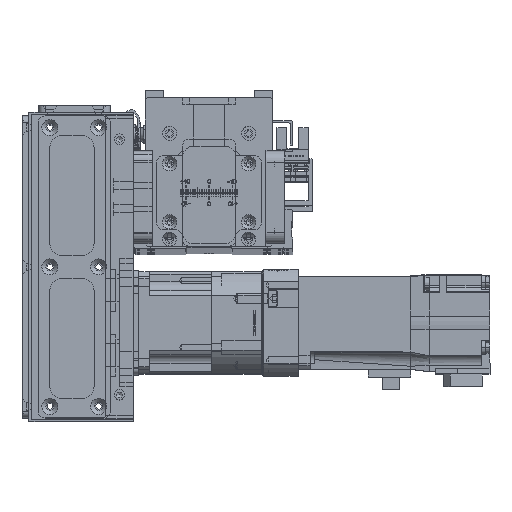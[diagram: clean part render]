
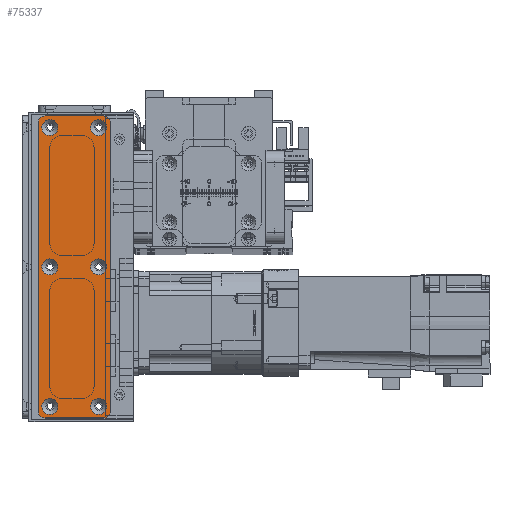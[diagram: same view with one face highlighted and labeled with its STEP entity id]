
A CAD part, top view. The second image highlights one B-rep face of the part: STEP entity #75337.
In plain terms, the highlighted planar face has unit normal (0, 0, 1).
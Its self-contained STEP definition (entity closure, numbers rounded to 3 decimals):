
#1910=FACE_BOUND('',#13080,.T.);
#1911=FACE_BOUND('',#13081,.T.);
#1912=FACE_BOUND('',#13082,.T.);
#1913=FACE_BOUND('',#13083,.T.);
#1914=FACE_BOUND('',#13084,.T.);
#1915=FACE_BOUND('',#13085,.T.);
#4502=PLANE('',#82878);
#8432=FACE_OUTER_BOUND('',#13079,.T.);
#13079=EDGE_LOOP('',(#70368,#70369,#70370,#70371,#70372,#70373,#70374,#70375));
#13080=EDGE_LOOP('',(#70376));
#13081=EDGE_LOOP('',(#70377));
#13082=EDGE_LOOP('',(#70378));
#13083=EDGE_LOOP('',(#70379));
#13084=EDGE_LOOP('',(#70380));
#13085=EDGE_LOOP('',(#70381));
#16075=CIRCLE('',#82832,3.45);
#16078=CIRCLE('',#82837,3.45);
#16081=CIRCLE('',#82842,3.45);
#16084=CIRCLE('',#82847,3.45);
#16087=CIRCLE('',#82852,3.45);
#16090=CIRCLE('',#82857,3.45);
#16097=CIRCLE('',#82867,3.);
#16098=CIRCLE('',#82870,3.);
#16099=CIRCLE('',#82873,3.);
#16100=CIRCLE('',#82876,3.);
#23680=LINE('',#130308,#31269);
#23683=LINE('',#130316,#31272);
#23686=LINE('',#130324,#31275);
#23689=LINE('',#130331,#31278);
#31269=VECTOR('',#103787,10.);
#31272=VECTOR('',#103796,10.);
#31275=VECTOR('',#103805,10.);
#31278=VECTOR('',#103814,10.);
#38284=VERTEX_POINT('',#130224);
#38287=VERTEX_POINT('',#130234);
#38290=VERTEX_POINT('',#130244);
#38293=VERTEX_POINT('',#130254);
#38296=VERTEX_POINT('',#130264);
#38299=VERTEX_POINT('',#130274);
#38310=VERTEX_POINT('',#130301);
#38311=VERTEX_POINT('',#130303);
#38312=VERTEX_POINT('',#130307);
#38313=VERTEX_POINT('',#130311);
#38314=VERTEX_POINT('',#130315);
#38315=VERTEX_POINT('',#130319);
#38316=VERTEX_POINT('',#130323);
#38317=VERTEX_POINT('',#130327);
#48952=EDGE_CURVE('',#38284,#38284,#16075,.T.);
#48957=EDGE_CURVE('',#38287,#38287,#16078,.T.);
#48962=EDGE_CURVE('',#38290,#38290,#16081,.T.);
#48967=EDGE_CURVE('',#38293,#38293,#16084,.T.);
#48972=EDGE_CURVE('',#38296,#38296,#16087,.T.);
#48977=EDGE_CURVE('',#38299,#38299,#16090,.T.);
#48991=EDGE_CURVE('',#38311,#38310,#16097,.T.);
#48993=EDGE_CURVE('',#38312,#38311,#23680,.T.);
#48995=EDGE_CURVE('',#38313,#38312,#16098,.T.);
#48997=EDGE_CURVE('',#38314,#38313,#23683,.T.);
#48999=EDGE_CURVE('',#38315,#38314,#16099,.T.);
#49001=EDGE_CURVE('',#38316,#38315,#23686,.T.);
#49003=EDGE_CURVE('',#38317,#38316,#16100,.T.);
#49005=EDGE_CURVE('',#38310,#38317,#23689,.T.);
#70368=ORIENTED_EDGE('',*,*,#49005,.T.);
#70369=ORIENTED_EDGE('',*,*,#49003,.T.);
#70370=ORIENTED_EDGE('',*,*,#49001,.T.);
#70371=ORIENTED_EDGE('',*,*,#48999,.T.);
#70372=ORIENTED_EDGE('',*,*,#48997,.T.);
#70373=ORIENTED_EDGE('',*,*,#48995,.T.);
#70374=ORIENTED_EDGE('',*,*,#48993,.T.);
#70375=ORIENTED_EDGE('',*,*,#48991,.T.);
#70376=ORIENTED_EDGE('',*,*,#48952,.T.);
#70377=ORIENTED_EDGE('',*,*,#48957,.T.);
#70378=ORIENTED_EDGE('',*,*,#48962,.T.);
#70379=ORIENTED_EDGE('',*,*,#48967,.T.);
#70380=ORIENTED_EDGE('',*,*,#48972,.T.);
#70381=ORIENTED_EDGE('',*,*,#48977,.T.);
#75337=ADVANCED_FACE('',(#8432,#1910,#1911,#1912,#1913,#1914,#1915),#4502,
 .T.);
#82832=AXIS2_PLACEMENT_3D('',#130225,#103695,#103696);
#82837=AXIS2_PLACEMENT_3D('',#130235,#103707,#103708);
#82842=AXIS2_PLACEMENT_3D('',#130245,#103719,#103720);
#82847=AXIS2_PLACEMENT_3D('',#130255,#103731,#103732);
#82852=AXIS2_PLACEMENT_3D('',#130265,#103743,#103744);
#82857=AXIS2_PLACEMENT_3D('',#130275,#103755,#103756);
#82867=AXIS2_PLACEMENT_3D('',#130304,#103782,#103783);
#82870=AXIS2_PLACEMENT_3D('',#130312,#103791,#103792);
#82873=AXIS2_PLACEMENT_3D('',#130320,#103800,#103801);
#82876=AXIS2_PLACEMENT_3D('',#130328,#103809,#103810);
#82878=AXIS2_PLACEMENT_3D('',#130332,#103815,#103816);
#103695=DIRECTION('center_axis',(0.,0.,-1.));
#103696=DIRECTION('ref_axis',(1.,0.,0.));
#103707=DIRECTION('center_axis',(0.,0.,-1.));
#103708=DIRECTION('ref_axis',(1.,0.,0.));
#103719=DIRECTION('center_axis',(0.,0.,-1.));
#103720=DIRECTION('ref_axis',(1.,0.,0.));
#103731=DIRECTION('center_axis',(0.,0.,-1.));
#103732=DIRECTION('ref_axis',(1.,0.,0.));
#103743=DIRECTION('center_axis',(0.,0.,-1.));
#103744=DIRECTION('ref_axis',(1.,0.,0.));
#103755=DIRECTION('center_axis',(0.,0.,-1.));
#103756=DIRECTION('ref_axis',(1.,0.,0.));
#103782=DIRECTION('center_axis',(0.,0.,1.));
#103783=DIRECTION('ref_axis',(0.,1.,0.));
#103787=DIRECTION('',(-1.,0.,0.));
#103791=DIRECTION('center_axis',(0.,0.,1.));
#103792=DIRECTION('ref_axis',(1.,0.,0.));
#103796=DIRECTION('',(0.,1.,0.));
#103800=DIRECTION('center_axis',(0.,0.,1.));
#103801=DIRECTION('ref_axis',(0.,-1.,0.));
#103805=DIRECTION('',(1.,0.,0.));
#103809=DIRECTION('center_axis',(0.,0.,1.));
#103810=DIRECTION('ref_axis',(-1.,0.,0.));
#103814=DIRECTION('',(0.,-1.,0.));
#103815=DIRECTION('center_axis',(0.,0.,1.));
#103816=DIRECTION('ref_axis',(1.,0.,0.));
#130224=CARTESIAN_POINT('',(-3.45,10.5,1.5));
#130225=CARTESIAN_POINT('Origin',(0.,10.5,1.5));
#130234=CARTESIAN_POINT('',(56.55,-10.5,1.5));
#130235=CARTESIAN_POINT('Origin',(60.,-10.5,1.5));
#130244=CARTESIAN_POINT('',(-63.45,10.5,1.5));
#130245=CARTESIAN_POINT('Origin',(-60.,10.5,1.5));
#130254=CARTESIAN_POINT('',(56.55,10.5,1.5));
#130255=CARTESIAN_POINT('Origin',(60.,10.5,1.5));
#130264=CARTESIAN_POINT('',(-63.45,-10.5,1.5));
#130265=CARTESIAN_POINT('Origin',(-60.,-10.5,1.5));
#130274=CARTESIAN_POINT('',(-3.45,-10.5,1.5));
#130275=CARTESIAN_POINT('Origin',(0.,-10.5,1.5));
#130301=CARTESIAN_POINT('',(-65.,12.5,1.5));
#130303=CARTESIAN_POINT('',(-62.,15.5,1.5));
#130304=CARTESIAN_POINT('Origin',(-62.,12.5,1.5));
#130307=CARTESIAN_POINT('',(62.,15.5,1.5));
#130308=CARTESIAN_POINT('',(62.,15.5,1.5));
#130311=CARTESIAN_POINT('',(65.,12.5,1.5));
#130312=CARTESIAN_POINT('Origin',(62.,12.5,1.5));
#130315=CARTESIAN_POINT('',(65.,-12.5,1.5));
#130316=CARTESIAN_POINT('',(65.,-12.5,1.5));
#130319=CARTESIAN_POINT('',(62.,-15.5,1.5));
#130320=CARTESIAN_POINT('Origin',(62.,-12.5,1.5));
#130323=CARTESIAN_POINT('',(-62.,-15.5,1.5));
#130324=CARTESIAN_POINT('',(-62.,-15.5,1.5));
#130327=CARTESIAN_POINT('',(-65.,-12.5,1.5));
#130328=CARTESIAN_POINT('Origin',(-62.,-12.5,1.5));
#130331=CARTESIAN_POINT('',(-65.,12.5,1.5));
#130332=CARTESIAN_POINT('Origin',(0.,0.,
1.5));
